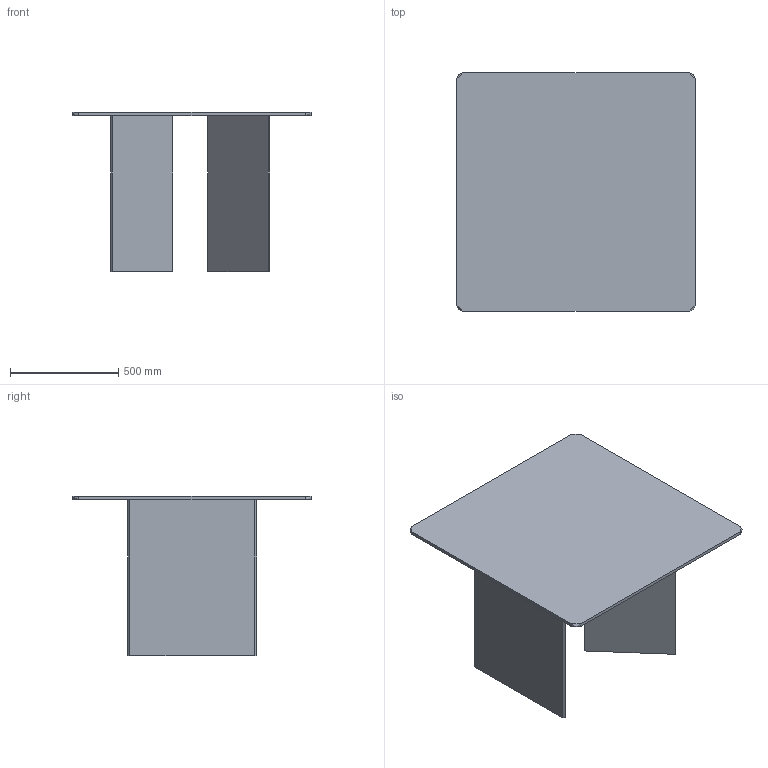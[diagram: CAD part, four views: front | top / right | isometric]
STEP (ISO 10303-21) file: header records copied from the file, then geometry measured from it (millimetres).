
FILE_DESCRIPTION(/* description */ (''),/* implementation_level */ '2;1');
FILE_NAME(/* name */ '216626 - corner 110x110',/* time_stamp */ '2014-07-31T16:08:42+02:00',/* author */ (''),/* organization */ (''),/* preprocessor_version */ 'ST-DEVELOPER v10',/* originating_system */ '',/* authorisation */ '');
FILE_SCHEMA (('CONFIG_CONTROL_DESIGN'));
Length unit declared in the file: millimetre
Products named in the file (1): 1
Bounding box: 1100 x 1100 x 735 mm (x, y, z)
Volume: 33187745.5 mm3; surface area: 4920958.2 mm2
Topology: 3 solids, 3 shells, 24 faces, 68 edges, 46 vertices
Faces by surface type: plane 16, bspline 8
Entity records: 834 total; most frequent: CARTESIAN_POINT 341, ORIENTED_EDGE 108, EDGE_CURVE 54, VERTEX_POINT 36, B_SPLINE_CURVE_WITH_KNOTS 32, DIRECTION 30, ADVANCED_FACE 24, FACE_OUTER_BOUND 24
